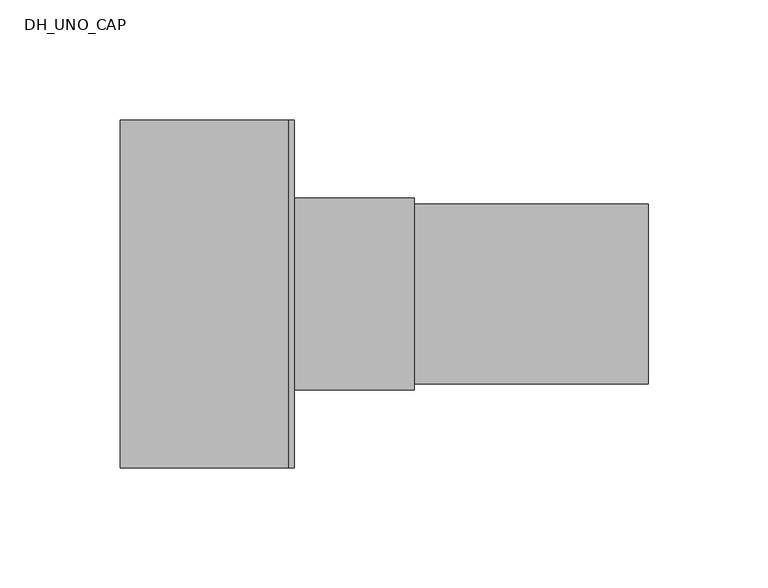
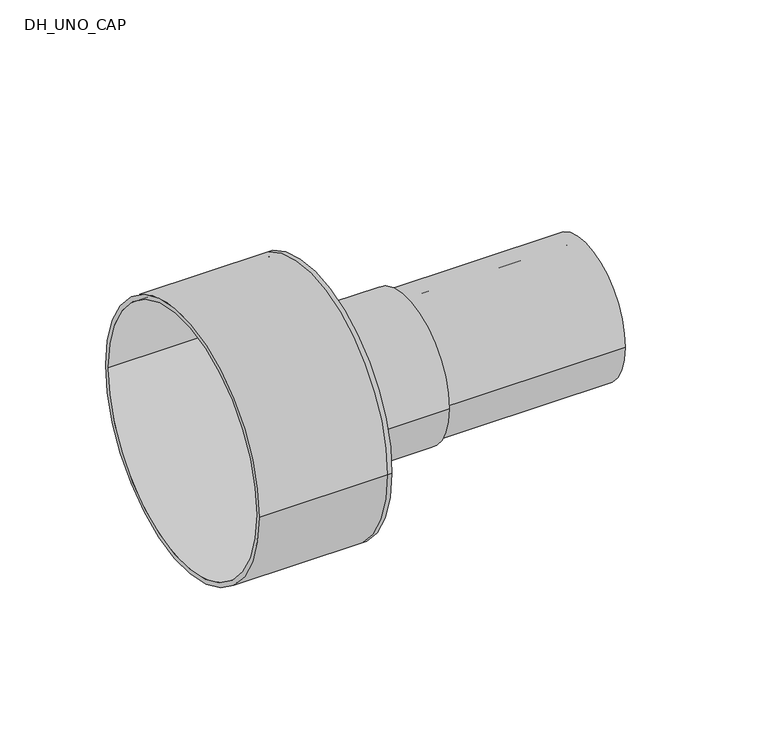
"""IFC4 building model written with IfcOpenShell, lengths in millimetres: pipe fitting geometry, DH_UNO_CAP : INSULPEX UNO 11 COOL - Rubber Cap."""

from ifc_helpers import new_model, si_unit, point, frame, origin, origin_2d, place, context, project, spatial, polyline, circle_curve, trimmed, segment, composite_curve, outline, extrude, source, transform, mapped, element, save
from ifc_brep_helpers import plane_surface, cylinder_surface, revolved_surface, advanced_brep


def dh_uno_cap_ae57088b(model_context):
    return source(origin(), model_context, "Body", "SolidModel", [
        extrude(outline(composite_curve([segment(trimmed(circle_curve(origin_2d(), 37.5), [point((-37.5, 0.0))], [point((37.5, 0.0))], False, "CARTESIAN"), True, "CONTINUOUS"), segment(trimmed(circle_curve(origin_2d(), 37.5), [point((37.5, 0.0))], [point((-37.5, 0.0))], False, "CARTESIAN"), True, "CONTINUOUS")], self_intersect=False), holes=[composite_curve([segment(trimmed(circle_curve(origin_2d(), 30.7), [point((-30.7, 0.0))], [point((30.7, 0.0))], True, "CARTESIAN"), True, "CONTINUOUS"), segment(trimmed(circle_curve(origin_2d(), 30.7), [point((30.7, 0.0))], [point((-30.7, 0.0))], True, "CARTESIAN"), True, "CONTINUOUS")], self_intersect=False)]), frame((0.0, 0.0, 0.0), z_axis=(1.0, 0.0, 0.0), x_axis=(0.0, 1.0, 0.0)), (0.0, 0.0, 1.0), 150.0),
        advanced_brep(
        [(-70.0, -72.5, 0.0), (-70.0, 72.5, 0.0), (-70.0, -70.0, 0.0), (-70.0, 70.0, 0.0), (0.0, -70.0, 0.0), (0.0, 70.0, 0.0), (0.0, -72.5, 0.0), (0.0, 72.5, 0.0), (0.0, 37.5, 0.0), (0.0, -37.5, 0.0), (2.5, -72.5, 0.0), (2.5, 72.5, 0.0), (2.5, -37.5, 0.0), (2.5, 37.5, 0.0)],
        [
            (0, 1, circle_curve(frame((-70.0, 0.0, 0.0), z_axis=(-1.0, 0.0, 0.0), x_axis=(0.0, 1.0, 0.0)), 72.5)),
            (1, 0, circle_curve(frame((-70.0, 0.0, 0.0), z_axis=(-1.0, 0.0, 0.0), x_axis=(0.0, 1.0, 0.0)), 72.5)),
            (2, 3, circle_curve(frame((-70.0, 0.0, 0.0), z_axis=(1.0, 0.0, 0.0), x_axis=(0.0, 1.0, 0.0)), 70.0)),
            (3, 2, circle_curve(frame((-70.0, 0.0, 0.0), z_axis=(1.0, 0.0, 0.0), x_axis=(0.0, 1.0, 0.0)), 70.0)),
            (2, 4),
            (4, 5, circle_curve(frame((0.0, 0.0, 0.0), z_axis=(1.0, 0.0, 0.0), x_axis=(0.0, 1.0, 0.0)), 70.0)),
            (5, 3),
            (5, 4, circle_curve(frame((0.0, 0.0, 0.0), z_axis=(1.0, 0.0, 0.0), x_axis=(0.0, 1.0, 0.0)), 70.0)),
            (0, 6),
            (6, 7, circle_curve(frame((0.0, 0.0, 0.0), z_axis=(-1.0, 0.0, 0.0), x_axis=(0.0, 1.0, 0.0)), 72.5)),
            (7, 1),
            (7, 6, circle_curve(frame((0.0, 0.0, 0.0), z_axis=(-1.0, 0.0, 0.0), x_axis=(0.0, 1.0, 0.0)), 72.5)),
            (8, 9, circle_curve(frame((0.0, 0.0, 0.0), z_axis=(1.0, 0.0, 0.0), x_axis=(0.0, 1.0, 0.0)), 37.5)),
            (9, 8, circle_curve(frame((0.0, 0.0, 0.0), z_axis=(1.0, 0.0, 0.0), x_axis=(0.0, 1.0, 0.0)), 37.5)),
            (10, 11, circle_curve(frame((2.5, 0.0, 0.0), z_axis=(1.0, 0.0, 0.0), x_axis=(0.0, 1.0, 0.0)), 72.5)),
            (11, 10, circle_curve(frame((2.5, 0.0, 0.0), z_axis=(1.0, 0.0, 0.0), x_axis=(0.0, 1.0, 0.0)), 72.5)),
            (12, 13, circle_curve(frame((2.5, 0.0, 0.0), z_axis=(-1.0, 0.0, 0.0), x_axis=(0.0, 1.0, 0.0)), 37.5)),
            (13, 12, circle_curve(frame((2.5, 0.0, 0.0), z_axis=(-1.0, 0.0, 0.0), x_axis=(0.0, 1.0, 0.0)), 37.5)),
            (11, 7),
            (6, 10),
            (8, 13),
            (12, 9),
        ],
        [
            plane_surface(frame((-70.0, 0.0, 0.0), z_axis=(-1.0, 0.0, 0.0), x_axis=(0.0, 0.0, 1.0))),
            revolved_surface(polyline([(0.0, 70.0, 0.0), (-70.0, 70.0, 0.0)]), (-70.0, 0.0, 0.0), (1.0, 0.0, 0.0)),
            cylinder_surface(frame((-70.0, 0.0, 0.0), z_axis=(-1.0, 0.0, 0.0), x_axis=(0.0, 1.0, 0.0)), 72.5),
            plane_surface(frame((0.0, 0.0, 0.0), z_axis=(-1.0, 0.0, 0.0), x_axis=(0.0, 0.0, 1.0))),
            plane_surface(frame((2.5, 0.0, 0.0), z_axis=(1.0, 0.0, 0.0), x_axis=(0.0, 0.0, 1.0))),
            cylinder_surface(frame((0.0, 0.0, 0.0), z_axis=(-1.0, 0.0, 0.0), x_axis=(0.0, 1.0, 0.0)), 72.5),
            revolved_surface(polyline([(0.0, 37.5, 0.0), (2.5, 37.5, 0.0)]), (0.0, 0.0, 0.0), (-1.0, 0.0, 0.0)),
        ],
        [
            (0, [[1, 2], [3, 4]]),
            (1, [[-3, 5, 6, 7]]),
            (1, [[-4, -7, 8, -5]]),
            (2, [[-1, 9, 10, 11]]),
            (2, [[-2, -11, 12, -9]]),
            (3, [[-6, -8], [13, 14]]),
            (4, [[15, 16], [17, 18]]),
            (5, [[-16, 19, -10, 20]]),
            (5, [[-15, -20, -12, -19]]),
            (6, [[21, -17, 22, -13]]),
            (6, [[-21, -14, -22, -18]]),
        ],
    ),
        extrude(outline(composite_curve([segment(trimmed(circle_curve(origin_2d(), 40.0), [point((-40.0, 0.0))], [point((40.0, 0.0))], False, "CARTESIAN"), True, "CONTINUOUS"), segment(trimmed(circle_curve(origin_2d(), 40.0), [point((40.0, 0.0))], [point((-40.0, 0.0))], False, "CARTESIAN"), True, "CONTINUOUS")], self_intersect=False), holes=[composite_curve([segment(trimmed(circle_curve(origin_2d(), 37.5), [point((-37.5, 0.0))], [point((37.5, 0.0))], True, "CARTESIAN"), True, "CONTINUOUS"), segment(trimmed(circle_curve(origin_2d(), 37.5), [point((37.5, 0.0))], [point((-37.5, 0.0))], True, "CARTESIAN"), True, "CONTINUOUS")], self_intersect=False)]), frame((2.5, 0.0, 0.0), z_axis=(1.0, 0.0, 0.0), x_axis=(0.0, 1.0, 0.0)), (0.0, 0.0, 1.0), 50.0),
    ])


if __name__ == "__main__":
    model = new_model("IFC4")
    model_context = context("Model", 3, world=origin())
    ifc_project = project(units=[si_unit("LENGTHUNIT", "METRE", prefix="MILLI")], contexts=[model_context])
    site = spatial("IfcSite", under=ifc_project)
    building = spatial("IfcBuilding", under=site)
    placement = place(None, origin())
    dh_uno_cap_shape = dh_uno_cap_ae57088b(model_context)
    element("IfcPipeFitting", 1, ObjectType="DH_UNO_CAP : INSULPEX UNO 11 COOL - Rubber Cap", at=placement, inside=building, context=model_context, shape_type="MappedRepresentation", body=[
        mapped(dh_uno_cap_shape, transform((0.0, 0.0, 0.0), x_axis=(1.0, 0.0, 0.0), y_axis=(0.0, 1.0, 0.0), z_axis=(0.0, 0.0, 1.0))),
    ])
    save(model, "model.ifc")
